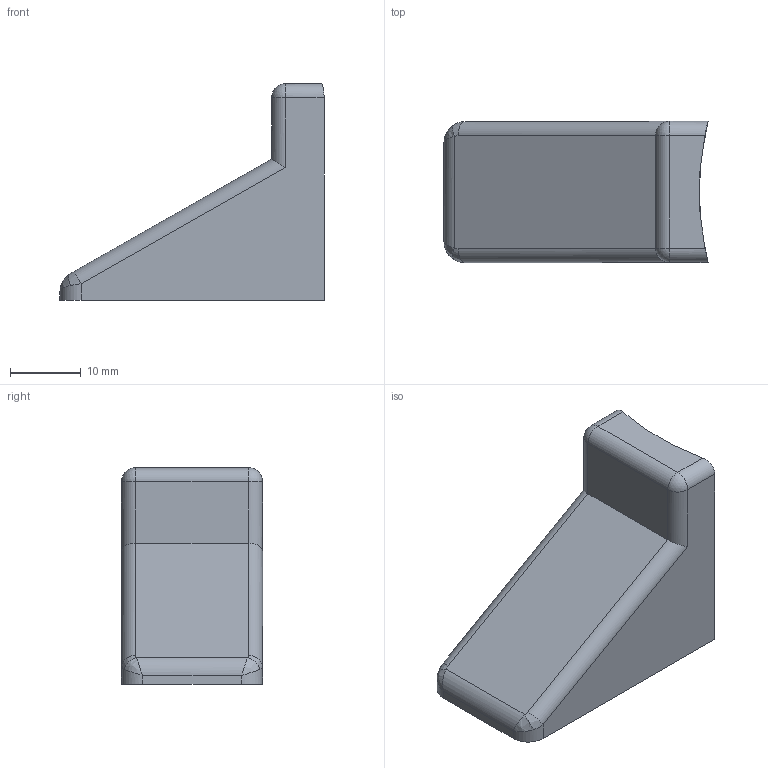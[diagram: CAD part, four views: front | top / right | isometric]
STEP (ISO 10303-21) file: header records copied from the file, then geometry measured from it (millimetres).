
FILE_DESCRIPTION(/* description */ (''),/* implementation_level */ '2;1');
FILE_NAME(/* name */ 'Base Support_v2.tmp.step',/* time_stamp */ '2026-11-01T13:09:13+02:00',/* author */ (''),/* organization */ (''),/* preprocessor_version */ 'ST-DEVELOPER v20.2',/* originating_system */ 'Autodesk Translation Framework v15.15.0.0',/* authorisation */ '');
FILE_SCHEMA (('AUTOMOTIVE_DESIGN { 1 0 10303 214 3 1 1 }'));
Length unit declared in the file: millimetre
Products named in the file (1): Base Support
Bounding box: 37.45 x 20 x 30.7 mm (x, y, z)
Volume: 10814.4 mm3; surface area: 3464.5 mm2
Topology: 1 solids, 1 shells, 24 faces, 54 edges, 30 vertices
Faces by surface type: cylinder 11, plane 7, bspline 4, sphere 2
Entity records: 769 total; most frequent: CARTESIAN_POINT 211, DIRECTION 116, ORIENTED_EDGE 104, EDGE_CURVE 52, AXIS2_PLACEMENT_3D 45, VERTEX_POINT 30, LINE 26, VECTOR 26
